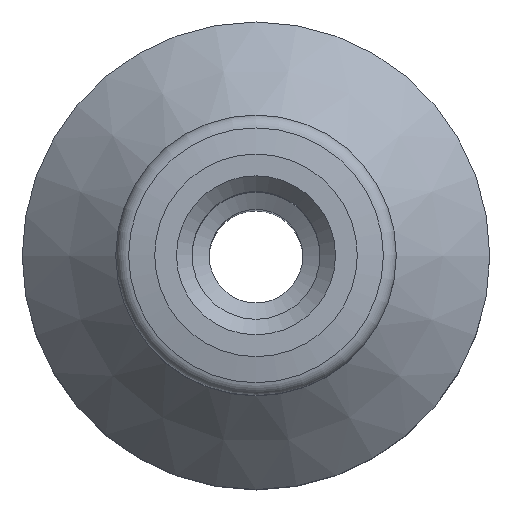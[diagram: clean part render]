
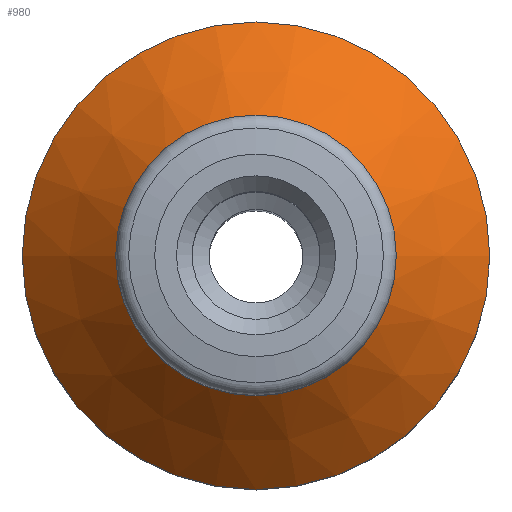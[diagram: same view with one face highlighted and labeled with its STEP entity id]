
A CAD part, top view. The second image highlights one B-rep face of the part: STEP entity #980.
In plain terms, the highlighted conical face has half-angle 45 degrees and reference radius 7.5 mm.
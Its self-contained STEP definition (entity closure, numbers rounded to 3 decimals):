
#980=ADVANCED_FACE('', (#990,#1000), #1010, .T.);
#3400=AXIS2_PLACEMENT_3D('Ax2Pl3d', #3410, #3420, #3430);
#3440=AXIS2_PLACEMENT_3D('Ax2Pl3d', #3450, #3460, #3470);
#3480=AXIS2_PLACEMENT_3D('Ax2Pl3d', #3490, #3500, #3510);
#3410=CARTESIAN_POINT('HicPkt', (9.984,5.338,
38.138));
#4960=CARTESIAN_POINT('', (17.484,5.338,38.138));
#3450=CARTESIAN_POINT('HicPkt', (9.984,5.338,
38.138));
#3490=CARTESIAN_POINT('HicPkt', (9.984,5.338,
41.138));
#4970=CARTESIAN_POINT('', (14.484,5.338,41.138));
#5330=CIRCLE('Circle', #3400, 7.5);
#5340=CIRCLE('Circle', #3480, 4.5);
#1010=CONICAL_SURFACE('Kegel', #3440, 7.5, 0.785);
#3420=DIRECTION('Axis', (0.,0.,-1.));
#3430=DIRECTION('RefDirection', (-1.,-0.,0.));
#3460=DIRECTION('Axis', (0.,0.,-1.));
#3470=DIRECTION('RefDirection', (-1.,-0.,0.));
#3500=DIRECTION('Axis', (0.,0.,-1.));
#3510=DIRECTION('RefDirection', (-1.,-0.,0.));
#7130=EDGE_CURVE('', #7140, #7140, #5330, .T.);
#7150=EDGE_CURVE('', #7160, #7160, #5340, .T.);
#8310=EDGE_LOOP('Edge_loop', (#8320));
#8330=EDGE_LOOP('Edge_loop', (#8340));
#1000=FACE_BOUND('', #8330, .T.);
#990=FACE_OUTER_BOUND('Face_outer_bound', #8310, .T.);
#8320=ORIENTED_EDGE('', *, *, #7130, .F.);
#8340=ORIENTED_EDGE('', *, *, #7150, .T.);
#7140=VERTEX_POINT('', #4960);
#7160=VERTEX_POINT('', #4970);
